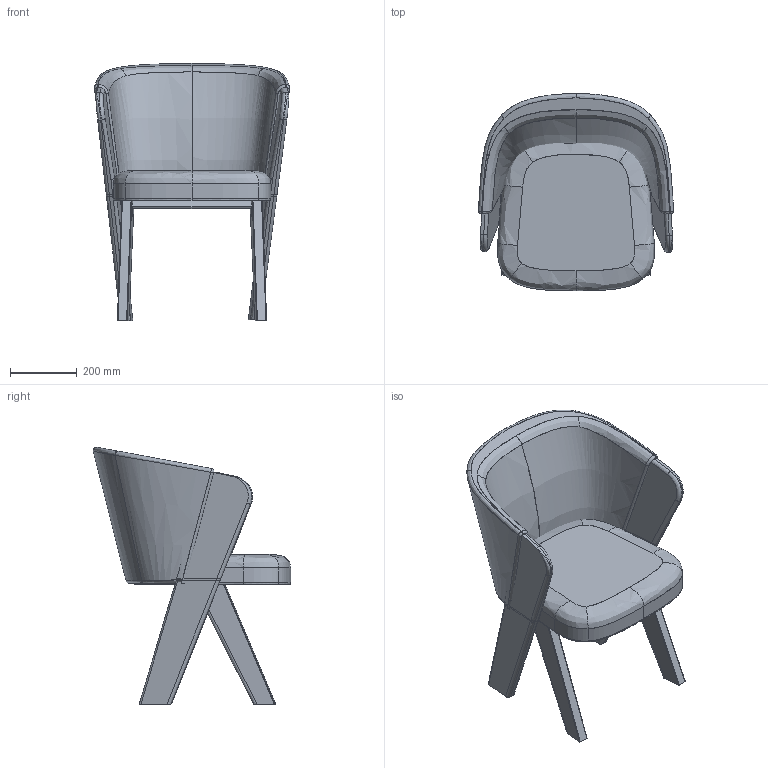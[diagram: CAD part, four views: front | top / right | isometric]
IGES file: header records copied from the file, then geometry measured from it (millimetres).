
Global section: file name: C:\Users\market02\Desktop\RYAN\Adrienne\exportation\FADRIBR061B\FADRIBRO61B.igs; native system: Rhinoceros ( Dec 14 2021 ); preprocessor: Trout Lake IGES 012 Dec 14 2021; date: 220222.104328; units: millimetre
Bounding box: 586.12 x 592.29 x 771.93 mm (x, y, z)
Surface area: 1857853.1 mm2 (no closed solid volume)
Topology: 0 solids, 0 shells, 162 faces, 2600 edges, 2584 vertices
Faces by surface type: bspline 162
